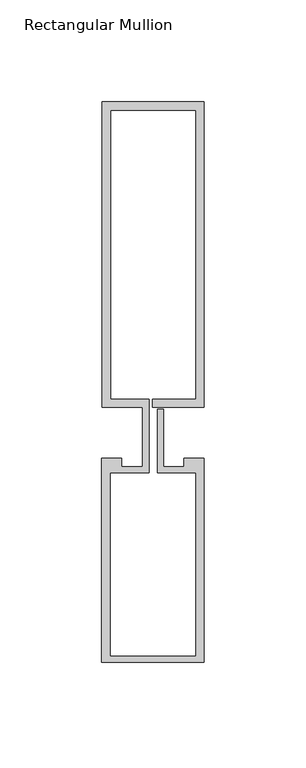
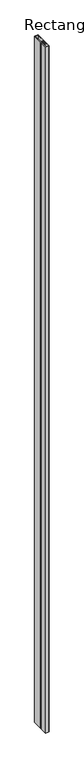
"""IFC4 building model written with IfcOpenShell, lengths in millimetres: member geometry, Rectangular Mullion : Reynaers_CW-50_Mullion-Transom_Vertical_149.8mm_Facecap-02D."""

from ifc_helpers import new_model, si_unit, frame, origin, place, context, project, spatial, polyline, outline, extrude, source, transform, mapped, element, save


def rectangular_mullion_43de7448(model_context):
    return source(origin(), model_context, "Body", "SweptSolid", [
        extrude(outline(polyline([(-24.8004059, 162.3), (25.1995941, 162.3), (25.1995941, 12.5), (0.0, 12.5), (0.0, 16.5), (21.1995941, 16.5), (21.1995941, 158.3), (-20.8004059, 158.3), (-20.8004059, 16.5), (-1.9004059, 16.5), (-1.9004059, -19.5), (-20.994845, -19.5), (-20.994845, -109.4191338), (21.1995941, -109.4191338), (21.1995941, -19.5), (2.2995941, -19.5), (2.2995941, 11.5), (5.2995941, 11.5), (5.2995941, -16.5), (15.2996495, -16.5), (15.2996495, -12.5), (25.1995941, -12.5), (25.1995941, -112.5), (-24.994845, -112.5), (-24.994845, -12.5), (-15.2996495, -12.5), (-15.2996495, -16.5), (-4.9004059, -16.5), (-4.9004059, 12.5), (-24.8004059, 12.5), (-24.8004059, 162.3)])), frame((0.0, 0.0, -10400.0), z_axis=(0.0, 0.0, 1.0), x_axis=(1.0, 0.0, 0.0)), (0.0, 0.0, 1.0), 10400.0),
    ])


if __name__ == "__main__":
    model = new_model("IFC4")
    model_context = context("Model", 3, world=origin())
    ifc_project = project(units=[si_unit("LENGTHUNIT", "METRE", prefix="MILLI")], contexts=[model_context])
    site = spatial("IfcSite", under=ifc_project)
    building = spatial("IfcBuilding", under=site)
    placement = place(None, origin())
    rectangular_mullion_shape = rectangular_mullion_43de7448(model_context)
    element("IfcMember", 1, ObjectType="Rectangular Mullion : Reynaers_CW-50_Mullion-Transom_Vertical_149.8mm_Facecap-02D", at=placement, inside=building, context=model_context, shape_type="MappedRepresentation", body=[
        mapped(rectangular_mullion_shape, transform((0.0, 0.0, 0.0), x_axis=(1.0, 0.0, 0.0), y_axis=(0.0, 1.0, 0.0), z_axis=(0.0, 0.0, 1.0))),
    ])
    save(model, "model.ifc")
